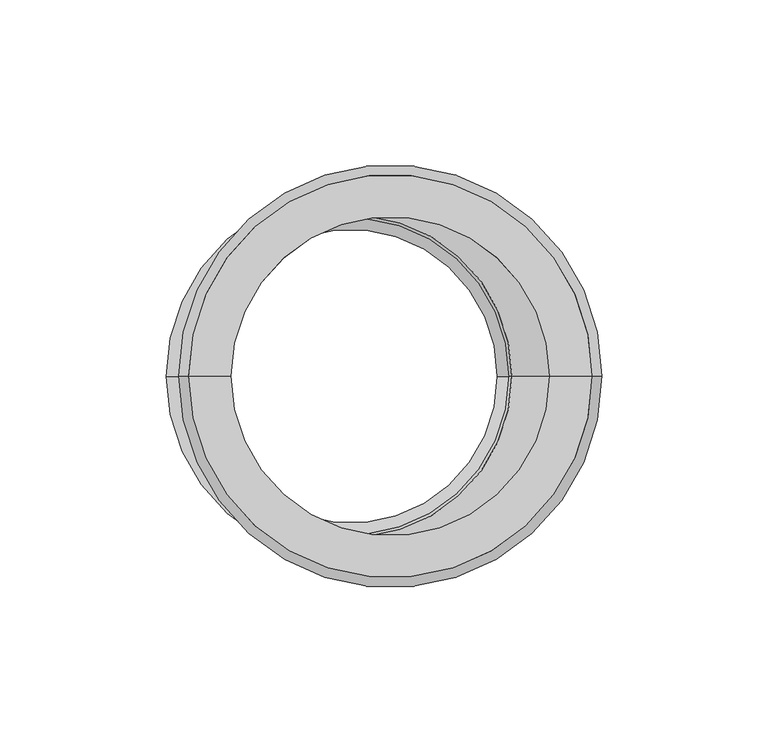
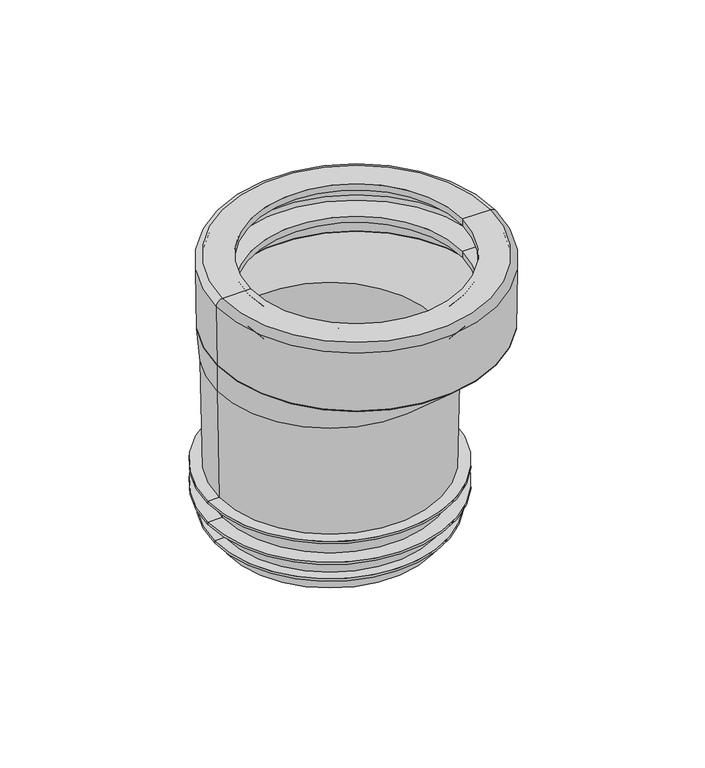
"""IFC4 building model written with IfcOpenShell, lengths in millimetres: sanitary terminal geometry, RSen_52_PIF_UN_closet connector no.7_wisa : closet connector_wisa_no 7 white."""

from ifc_helpers import new_model, si_unit, point, frame, origin, origin_with_axes, place, context, project, spatial, polyline, circle_curve, ellipse_curve, trimmed, source, transform, mapped, element, save
from ifc_brep_helpers import plane_surface, cylinder_surface, revolved_surface, spline_surface, advanced_brep


def sanitary_terminal_189e0af2(model_context):
    return source(origin(), model_context, "Body", "AdvancedBrep", [
        advanced_brep(
        [(75.2019466, 0.0, -31.3979602), (-51.2019466, 0.0, -31.3979602), (-48.2014896, 0.0, -31.3979602), (72.2014896, 0.0, -31.3979602), (51.3318986, 0.0, -43.5), (-51.3318986, 0.0, -43.5), (48.5868597, 0.0, -43.5), (-48.5868597, 0.0, -43.5)],
        [
            (0, 1, circle_curve(frame((12.0, 0.0, -31.3979602), z_axis=(0.0, 0.0, 1.0), x_axis=(1.0, 0.0, 0.0)), 63.2019466)),
            (1, 0, circle_curve(frame((12.0, 0.0, -31.3979602), z_axis=(0.0, 0.0, 1.0), x_axis=(1.0, 0.0, 0.0)), 63.2019466)),
            (2, 3, circle_curve(frame((12.0, 0.0, -31.3979602), z_axis=(0.0, 0.0, -1.0), x_axis=(1.0, 0.0, 0.0)), 60.2014896)),
            (3, 2, circle_curve(frame((12.0, 0.0, -31.3979602), z_axis=(0.0, 0.0, -1.0), x_axis=(1.0, 0.0, 0.0)), 60.2014896)),
            (4, 5, circle_curve(frame((0.0, 0.0, -43.5), z_axis=(0.0, 0.0, -1.0), x_axis=(1.0, 0.0, 0.0)), 51.3318986)),
            (5, 4, circle_curve(frame((0.0, 0.0, -43.5), z_axis=(0.0, 0.0, -1.0), x_axis=(1.0, 0.0, 0.0)), 51.3318986)),
            (6, 7, circle_curve(frame((0.0, 0.0, -43.5), z_axis=(0.0, 0.0, 1.0), x_axis=(1.0, 0.0, 0.0)), 48.5868597)),
            (7, 6, circle_curve(frame((0.0, 0.0, -43.5), z_axis=(0.0, 0.0, 1.0), x_axis=(1.0, 0.0, 0.0)), 48.5868597)),
            (0, 4),
            (5, 1),
            (6, 3),
            (2, 7),
        ],
        [
            plane_surface(frame((12.0, 0.0, -31.3979602), z_axis=(0.0, 0.0, 1.0), x_axis=(0.0, -1.0, 0.0))),
            plane_surface(frame((0.0, 0.0, -43.5), z_axis=(0.0, 0.0, -1.0), x_axis=(0.0, 1.0, 0.0))),
            spline_surface(2, 1, [[(51.3318986, 0.0, -43.5), (75.2019466, 0.0, -31.3979602)], [(51.3318986, 51.3318986, -43.5), (75.2019466, 63.2019466, -31.3979602)], [(0.0, 51.3318986, -43.5), (12.0, 63.2019466, -31.3979602)], [(-51.3318986, 51.3318986, -43.5), (-51.2019466, 63.2019466, -31.3979602)], [(-51.3318986, 0.0, -43.5), (-51.2019466, 0.0, -31.3979602)]], [3, 2, 3], [2, 2], [0.0, 1.0, 2.0], [0.0, 1.0], weights=[[1.0, 1.0], [0.7071067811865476, 0.7071067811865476], [1.0, 1.0], [0.7071067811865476, 0.7071067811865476], [1.0, 1.0]]),
            spline_surface(2, 1, [[(-51.3318986, 0.0, -43.5), (-51.2019466, 0.0, -31.3979602)], [(-51.3318986, -51.3318986, -43.5), (-51.2019466, -63.2019466, -31.3979602)], [(0.0, -51.3318986, -43.5), (12.0, -63.2019466, -31.3979602)], [(51.3318986, -51.3318986, -43.5), (75.2019466, -63.2019466, -31.3979602)], [(51.3318986, 0.0, -43.5), (75.2019466, 0.0, -31.3979602)]], [3, 2, 3], [2, 2], [0.0, 1.0, 2.0], [0.0, 1.0], weights=[[1.0, 1.0], [0.7071067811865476, 0.7071067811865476], [1.0, 1.0], [0.7071067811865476, 0.7071067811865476], [1.0, 1.0]]),
            spline_surface(1, 2, [[(48.5868597, 0.0, -43.5), (48.5868597, 48.5868597, -43.5), (0.0, 48.5868597, -43.5), (-48.5868597, 48.5868597, -43.5), (-48.5868597, 0.0, -43.5)], [(72.2014896, 0.0, -31.3979602), (72.2014896, 60.2014896, -31.3979602), (12.0, 60.2014896, -31.3979602), (-48.2014896, 60.2014896, -31.3979602), (-48.2014896, 0.0, -31.3979602)]], [2, 2], [3, 2, 3], [0.0, 1.0], [0.0, 1.0, 2.0], weights=[[1.0, 0.7071067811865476, 1.0, 0.7071067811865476, 1.0], [1.0, 0.7071067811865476, 1.0, 0.7071067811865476, 1.0]]),
            spline_surface(1, 2, [[(-48.5868597, 0.0, -43.5), (-48.5868597, -48.5868597, -43.5), (0.0, -48.5868597, -43.5), (48.5868597, -48.5868597, -43.5), (48.5868597, 0.0, -43.5)], [(-48.2014896, 0.0, -31.3979602), (-48.2014896, -60.2014896, -31.3979602), (12.0, -60.2014896, -31.3979602), (72.2014896, -60.2014896, -31.3979602), (72.2014896, 0.0, -31.3979602)]], [2, 2], [3, 2, 3], [0.0, 1.0], [0.0, 1.0, 2.0], weights=[[1.0, 0.7071067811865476, 1.0, 0.7071067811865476, 1.0], [1.0, 0.7071067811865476, 1.0, 0.7071067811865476, 1.0]]),
        ],
        [
            (0, [[1, 2], [3, 4]]),
            (1, [[5, 6], [7, 8]]),
            (2, [[-1, 9, -6, 10]]),
            (3, [[-2, -10, -5, -9]]),
            (4, [[11, -3, 12, -7]]),
            (5, [[-11, -8, -12, -4]]),
        ],
    ),
        advanced_brep(
        [(-36.0, 0.0, 0.0), (60.0, 0.0, 0.0), (72.6971778, 0.0, 0.0), (-48.6971778, 0.0, 0.0), (-36.0, 0.0, -3.0), (60.0, 0.0, -3.0), (-36.8962954, 0.0, -3.0), (60.8962954, 0.0, -3.0), (-39.443578, 0.0, -1.0009298), (63.443578, 0.0, -1.0009298), (-47.2524325, 0.0, -1.4101745), (71.2524325, 0.0, -1.4101745), (-48.6978722, 0.0, -2.9602188), (72.6978722, 0.0, -2.9602188), (-48.5047152, 0.0, -14.0261786), (72.5047152, 0.0, -14.0261786), (-47.0049436, 0.0, -15.5), (71.0049436, 0.0, -15.5), (-36.0, 0.0, -15.5), (60.0, 0.0, -15.5), (-36.0, 0.0, -18.5), (60.0, 0.0, -18.5), (-36.8962954, 0.0, -18.5), (60.8962954, 0.0, -18.5), (-39.443578, 0.0, -16.5009298), (63.443578, 0.0, -16.5009298), (-48.4532763, 0.0, -16.973108), (72.4532763, 0.0, -16.973108), (-48.2014896, 0.0, -31.3979602), (72.2014896, 0.0, -31.3979602), (-51.6967209, 0.0, -3.0523572), (75.6967209, 0.0, -3.0523572), (75.2019466, 0.0, -31.3979602), (-51.2019466, 0.0, -31.3979602)],
        [
            (0, 1, circle_curve(frame((12.0, 0.0, 0.0), z_axis=(0.0, 0.0, -1.0), x_axis=(1.0, 0.0, 0.0)), 48.0)),
            (1, 2),
            (2, 3, circle_curve(frame((12.0, 0.0, 0.0), z_axis=(0.0, 0.0, 1.0), x_axis=(1.0, 0.0, 0.0)), 60.6971778)),
            (3, 0),
            (1, 0, circle_curve(frame((12.0, 0.0, 0.0), z_axis=(0.0, 0.0, -1.0), x_axis=(1.0, 0.0, 0.0)), 48.0)),
            (3, 2, circle_curve(frame((12.0, 0.0, 0.0), z_axis=(0.0, 0.0, 1.0), x_axis=(1.0, 0.0, 0.0)), 60.6971778)),
            (4, 5, circle_curve(frame((12.0, 0.0, -3.0), z_axis=(0.0, 0.0, -1.0), x_axis=(1.0, 0.0, 0.0)), 48.0)),
            (5, 1),
            (0, 4),
            (5, 4, circle_curve(frame((12.0, 0.0, -3.0), z_axis=(0.0, 0.0, -1.0), x_axis=(1.0, 0.0, 0.0)), 48.0)),
            (6, 7, circle_curve(frame((12.0, 0.0, -3.0), z_axis=(0.0, 0.0, -1.0), x_axis=(1.0, 0.0, 0.0)), 48.8962954)),
            (7, 5),
            (4, 6),
            (7, 6, circle_curve(frame((12.0, 0.0, -3.0), z_axis=(0.0, 0.0, -1.0), x_axis=(1.0, 0.0, 0.0)), 48.8962954)),
            (8, 9, circle_curve(frame((12.0, 0.0, -1.0009298), z_axis=(0.0, 0.0, -1.0), x_axis=(1.0, 0.0, 0.0)), 51.443578)),
            (9, 7, circle_curve(frame((63.3147446, 0.0, -3.4592176), z_axis=(0.0, -1.0, 0.0), x_axis=(1.0, 0.0, 0.0)), 2.4616615)),
            (6, 8, circle_curve(frame((-39.3147446, 0.0, -3.4592176), z_axis=(0.0, -1.0, 0.0), x_axis=(-1.0, 0.0, 0.0)), 2.4616615)),
            (9, 8, circle_curve(frame((12.0, 0.0, -1.0009298), z_axis=(0.0, 0.0, -1.0), x_axis=(1.0, 0.0, 0.0)), 51.443578)),
            (10, 11, circle_curve(frame((12.0, 0.0, -1.4101745), z_axis=(0.0, 0.0, -1.0), x_axis=(1.0, 0.0, 0.0)), 59.2524325)),
            (11, 9),
            (8, 10),
            (11, 10, circle_curve(frame((12.0, 0.0, -1.4101745), z_axis=(0.0, 0.0, -1.0), x_axis=(1.0, 0.0, 0.0)), 59.2524325)),
            (12, 13, circle_curve(frame((12.0, 0.0, -2.9602188), z_axis=(0.0, 0.0, -1.0), x_axis=(1.0, 0.0, 0.0)), 60.6978722)),
            (13, 11, circle_curve(frame((71.1725934, 0.0, -2.933595), z_axis=(0.0, -1.0, 0.0), x_axis=(1.0, 0.0, 0.0)), 1.5255112)),
            (10, 12, circle_curve(frame((-47.1725934, 0.0, -2.933595), z_axis=(0.0, -1.0, 0.0), x_axis=(-1.0, 0.0, 0.0)), 1.5255112)),
            (13, 12, circle_curve(frame((12.0, 0.0, -2.9602188), z_axis=(0.0, 0.0, -1.0), x_axis=(1.0, 0.0, 0.0)), 60.6978722)),
            (14, 15, circle_curve(frame((12.0, 0.0, -14.0261786), z_axis=(0.0, 0.0, -1.0), x_axis=(1.0, 0.0, 0.0)), 60.5047152)),
            (15, 13),
            (12, 14),
            (15, 14, circle_curve(frame((12.0, 0.0, -14.0261786), z_axis=(0.0, 0.0, -1.0), x_axis=(1.0, 0.0, 0.0)), 60.5047152)),
            (16, 17, circle_curve(frame((12.0, 0.0, -15.5), z_axis=(0.0, 0.0, -1.0), x_axis=(1.0, 0.0, 0.0)), 59.0049436)),
            (17, 15, circle_curve(frame((71.0049436, 0.0, -14.0), z_axis=(0.0, -1.0, 0.0), x_axis=(1.0, 0.0, 0.0)), 1.5)),
            (14, 16, circle_curve(frame((-47.0049436, 0.0, -14.0), z_axis=(0.0, -1.0, 0.0), x_axis=(-1.0, 0.0, 0.0)), 1.5)),
            (17, 16, circle_curve(frame((12.0, 0.0, -15.5), z_axis=(0.0, 0.0, -1.0), x_axis=(1.0, 0.0, 0.0)), 59.0049436)),
            (18, 19, circle_curve(frame((12.0, 0.0, -15.5), z_axis=(0.0, 0.0, -1.0), x_axis=(1.0, 0.0, 0.0)), 48.0)),
            (19, 17),
            (16, 18),
            (19, 18, circle_curve(frame((12.0, 0.0, -15.5), z_axis=(0.0, 0.0, -1.0), x_axis=(1.0, 0.0, 0.0)), 48.0)),
            (20, 21, circle_curve(frame((12.0, 0.0, -18.5), z_axis=(0.0, 0.0, -1.0), x_axis=(1.0, 0.0, 0.0)), 48.0)),
            (21, 19),
            (18, 20),
            (21, 20, circle_curve(frame((12.0, 0.0, -18.5), z_axis=(0.0, 0.0, -1.0), x_axis=(1.0, 0.0, 0.0)), 48.0)),
            (22, 23, circle_curve(frame((12.0, 0.0, -18.5), z_axis=(0.0, 0.0, -1.0), x_axis=(1.0, 0.0, 0.0)), 48.8962954)),
            (23, 21),
            (20, 22),
            (23, 22, circle_curve(frame((12.0, 0.0, -18.5), z_axis=(0.0, 0.0, -1.0), x_axis=(1.0, 0.0, 0.0)), 48.8962954)),
            (24, 25, circle_curve(frame((12.0, 0.0, -16.5009298), z_axis=(0.0, 0.0, -1.0), x_axis=(1.0, 0.0, 0.0)), 51.443578)),
            (25, 23, circle_curve(frame((63.3147446, 0.0, -18.9592176), z_axis=(0.0, -1.0, 0.0), x_axis=(1.0, 0.0, 0.0)), 2.4616615)),
            (22, 24, circle_curve(frame((-39.3147446, 0.0, -18.9592176), z_axis=(0.0, -1.0, 0.0), x_axis=(-1.0, 0.0, 0.0)), 2.4616615)),
            (25, 24, circle_curve(frame((12.0, 0.0, -16.5009298), z_axis=(0.0, 0.0, -1.0), x_axis=(1.0, 0.0, 0.0)), 51.443578)),
            (26, 27, circle_curve(frame((12.0, 0.0, -16.973108), z_axis=(0.0, 0.0, -1.0), x_axis=(1.0, 0.0, 0.0)), 60.4532763)),
            (27, 25),
            (24, 26),
            (27, 26, circle_curve(frame((12.0, 0.0, -16.973108), z_axis=(0.0, 0.0, -1.0), x_axis=(1.0, 0.0, 0.0)), 60.4532763)),
            (28, 29, circle_curve(frame((12.0, 0.0, -31.3979602), z_axis=(0.0, 0.0, -1.0), x_axis=(1.0, 0.0, 0.0)), 60.2014896)),
            (29, 27),
            (26, 28),
            (29, 28, circle_curve(frame((12.0, 0.0, -31.3979602), z_axis=(0.0, 0.0, -1.0), x_axis=(1.0, 0.0, 0.0)), 60.2014896)),
            (30, 31, circle_curve(frame((12.0, 0.0, -3.0523572), z_axis=(0.0, 0.0, -1.0), x_axis=(1.0, 0.0, 0.0)), 63.6967209)),
            (31, 32),
            (32, 33, circle_curve(frame((12.0, 0.0, -31.3979602), z_axis=(0.0, 0.0, 1.0), x_axis=(1.0, 0.0, 0.0)), 63.2019466)),
            (33, 30),
            (31, 30, circle_curve(frame((12.0, 0.0, -3.0523572), z_axis=(0.0, 0.0, -1.0), x_axis=(1.0, 0.0, 0.0)), 63.6967209)),
            (33, 32, circle_curve(frame((12.0, 0.0, -31.3979602), z_axis=(0.0, 0.0, 1.0), x_axis=(1.0, 0.0, 0.0)), 63.2019466)),
            (2, 31, circle_curve(frame((72.6971778, 0.0, -3.0), z_axis=(0.0, 1.0, 0.0), x_axis=(1.0, 0.0, 0.0)), 3.0)),
            (30, 3, circle_curve(frame((-48.6971778, 0.0, -3.0), z_axis=(0.0, 1.0, 0.0), x_axis=(-1.0, 0.0, 0.0)), 3.0)),
            (32, 29),
            (28, 33),
        ],
        [
            plane_surface(frame((12.0, 0.0, 0.0), z_axis=(0.0, 0.0, 1.0), x_axis=(1.0, 0.0, 0.0))),
            revolved_surface(polyline([(60.0, 0.0, 0.0), (60.0, 0.0, -3.0)]), (12.0, 0.0, 0.0), (0.0, 0.0, 1.0)),
            plane_surface(frame((12.0, 0.0, -3.0), z_axis=(0.0, 0.0, -1.0), x_axis=(1.0, 0.0, 0.0))),
            revolved_surface(trimmed(ellipse_curve(frame((63.3147446, 0.0, -3.4592176), z_axis=(0.0, 1.0, 0.0), x_axis=(1.0, 0.0, 0.0)), 2.4616615, 2.4616615), [point((60.8962954, 0.0, -3.0))], [point((63.443578, 0.0, -1.0009298))], True, "CARTESIAN"), (12.0, 0.0, 0.0), (0.0, 0.0, 1.0)),
            revolved_surface(polyline([(63.443578, 0.0, -1.0009298), (71.2524325, 0.0, -1.4101745)]), (12.0, 0.0, 0.0), (0.0, 0.0, 1.0)),
            revolved_surface(trimmed(ellipse_curve(frame((71.1725934, 0.0, -2.933595), z_axis=(0.0, 1.0, 0.0), x_axis=(1.0, 0.0, 0.0)), 1.5255112, 1.5255112), [point((71.2524325, 0.0, -1.4101745))], [point((72.6978722, 0.0, -2.9602188))], True, "CARTESIAN"), (12.0, 0.0, 0.0), (0.0, 0.0, 1.0)),
            revolved_surface(polyline([(72.6978722, 0.0, -2.9602188), (72.5047152, 0.0, -14.0261786)]), (12.0, 0.0, 0.0), (0.0, 0.0, 1.0)),
            revolved_surface(trimmed(ellipse_curve(frame((71.0049436, 0.0, -14.0), z_axis=(0.0, 1.0, 0.0), x_axis=(1.0, 0.0, 0.0)), 1.5, 1.5), [point((72.5047152, 0.0, -14.0261786))], [point((71.0049436, 0.0, -15.5))], True, "CARTESIAN"), (12.0, 0.0, 0.0), (0.0, 0.0, 1.0)),
            plane_surface(frame((12.0, 0.0, -15.5), z_axis=(0.0, 0.0, 1.0), x_axis=(1.0, 0.0, 0.0))),
            revolved_surface(polyline([(60.0, 0.0, -15.5), (60.0, 0.0, -18.5)]), (12.0, 0.0, 0.0), (0.0, 0.0, 1.0)),
            plane_surface(frame((12.0, 0.0, -18.5), z_axis=(0.0, 0.0, -1.0), x_axis=(1.0, 0.0, 0.0))),
            revolved_surface(trimmed(ellipse_curve(frame((63.3147446, 0.0, -18.9592176), z_axis=(0.0, 1.0, 0.0), x_axis=(1.0, 0.0, 0.0)), 2.4616615, 2.4616615), [point((60.8962954, 0.0, -18.5))], [point((63.443578, 0.0, -16.5009298))], True, "CARTESIAN"), (12.0, 0.0, 0.0), (0.0, 0.0, 1.0)),
            revolved_surface(polyline([(63.443578, 0.0, -16.5009298), (72.4532763, 0.0, -16.973108)]), (12.0, 0.0, 0.0), (0.0, 0.0, 1.0)),
            revolved_surface(polyline([(72.4532763, 0.0, -16.973108), (72.2014896, 0.0, -31.3979602)]), (12.0, 0.0, 0.0), (0.0, 0.0, 1.0)),
            revolved_surface(polyline([(75.2019466, 0.0, -31.3979602), (75.6967209, 0.0, -3.0523572)]), (12.0, 0.0, 0.0), (0.0, 0.0, 1.0)),
            revolved_surface(trimmed(ellipse_curve(frame((72.6971778, 0.0, -3.0), z_axis=(0.0, -1.0, 0.0), x_axis=(1.0, 0.0, 0.0)), 3.0, 3.0), [point((75.6967209, 0.0, -3.0523572))], [point((72.6971778, 0.0, 0.0))], True, "CARTESIAN"), (12.0, 0.0, 0.0), (0.0, 0.0, 1.0)),
            plane_surface(frame((12.0, 0.0, -31.3979602), z_axis=(0.0, 0.0, -1.0), x_axis=(1.0, 0.0, 0.0))),
        ],
        [
            (0, [[1, 2, 3, 4]]),
            (0, [[5, -4, 6, -2]]),
            (1, [[7, 8, -1, 9]]),
            (1, [[10, -9, -5, -8]]),
            (2, [[11, 12, -7, 13]]),
            (2, [[14, -13, -10, -12]]),
            (3, [[15, 16, -11, 17]]),
            (3, [[18, -17, -14, -16]]),
            (4, [[19, 20, -15, 21]]),
            (4, [[22, -21, -18, -20]]),
            (5, [[23, 24, -19, 25]]),
            (5, [[26, -25, -22, -24]]),
            (6, [[27, 28, -23, 29]]),
            (6, [[30, -29, -26, -28]]),
            (7, [[31, 32, -27, 33]]),
            (7, [[34, -33, -30, -32]]),
            (8, [[35, 36, -31, 37]]),
            (8, [[38, -37, -34, -36]]),
            (9, [[39, 40, -35, 41]]),
            (9, [[42, -41, -38, -40]]),
            (10, [[43, 44, -39, 45]]),
            (10, [[46, -45, -42, -44]]),
            (11, [[47, 48, -43, 49]]),
            (11, [[50, -49, -46, -48]]),
            (12, [[51, 52, -47, 53]]),
            (12, [[54, -53, -50, -52]]),
            (13, [[55, 56, -51, 57]]),
            (13, [[58, -57, -54, -56]]),
            (14, [[59, 60, 61, 62]]),
            (14, [[63, -62, 64, -60]]),
            (15, [[-3, 65, -59, 66]]),
            (15, [[-6, -66, -63, -65]]),
            (16, [[-61, 67, -55, 68]]),
            (16, [[-64, -68, -58, -67]]),
        ],
    ),
        advanced_brep(
        [(-46.8916152, 0.0, -116.0275376), (46.8916152, 0.0, -116.0275376), (46.5, 0.0, -123.5), (-46.5, 0.0, -123.5), (-52.5, 0.0, -116.0275376), (52.5, 0.0, -116.0275376), (-52.5, 0.0, -115.0), (52.5, 0.0, -115.0), (-47.9541176, 0.0, -115.0), (47.9541176, 0.0, -115.0), (-48.4257877, 0.0, -106.0), (48.4257877, 0.0, -106.0), (-55.5343222, 0.0, -106.0), (55.5343222, 0.0, -106.0), (-55.5343222, 0.0, -105.0), (55.5343222, 0.0, -105.0), (-48.9541176, 0.0, -105.0), (48.9541176, 0.0, -105.0), (-49.4279521, 0.0, -95.9587001), (49.4279521, 0.0, -95.9587001), (-55.5343222, 0.0, -95.9587001), (55.5343222, 0.0, -95.9587001), (-55.5343222, 0.0, -95.0), (55.5343222, 0.0, -95.0), (-50.4329627, 0.0, -95.0), (50.4329627, 0.0, -95.0), (-51.3318986, 0.0, -43.5), (51.3318986, 0.0, -43.5), (-48.5868597, 0.0, -43.5), (48.5868597, 0.0, -43.5), (-47.6791964, 0.0, -95.5), (47.6791964, 0.0, -95.5), (-44.25, 0.0, -119.9), (44.25, 0.0, -119.9), (-44.25, 0.0, -123.5), (44.25, 0.0, -123.5)],
        [
            (0, 1, circle_curve(frame((0.0, 0.0, -116.0275376), z_axis=(0.0, 0.0, -1.0), x_axis=(1.0, 0.0, 0.0)), 46.8916152)),
            (1, 2),
            (2, 3, circle_curve(frame((0.0, 0.0, -123.5), z_axis=(0.0, 0.0, 1.0), x_axis=(1.0, 0.0, 0.0)), 46.5)),
            (3, 0),
            (1, 0, circle_curve(frame((0.0, 0.0, -116.0275376), z_axis=(0.0, 0.0, -1.0), x_axis=(1.0, 0.0, 0.0)), 46.8916152)),
            (3, 2, circle_curve(frame((0.0, 0.0, -123.5), z_axis=(0.0, 0.0, 1.0), x_axis=(1.0, 0.0, 0.0)), 46.5)),
            (4, 5, circle_curve(frame((0.0, 0.0, -116.0275376), z_axis=(0.0, 0.0, -1.0), x_axis=(1.0, 0.0, 0.0)), 52.5)),
            (5, 1),
            (0, 4),
            (5, 4, circle_curve(frame((0.0, 0.0, -116.0275376), z_axis=(0.0, 0.0, -1.0), x_axis=(1.0, 0.0, 0.0)), 52.5)),
            (6, 7, circle_curve(frame((0.0, 0.0, -115.0), z_axis=(0.0, 0.0, -1.0), x_axis=(1.0, 0.0, 0.0)), 52.5)),
            (7, 5),
            (4, 6),
            (7, 6, circle_curve(frame((0.0, 0.0, -115.0), z_axis=(0.0, 0.0, -1.0), x_axis=(1.0, 0.0, 0.0)), 52.5)),
            (8, 9, circle_curve(frame((0.0, 0.0, -115.0), z_axis=(0.0, 0.0, -1.0), x_axis=(1.0, 0.0, 0.0)), 47.9541176)),
            (9, 7),
            (6, 8),
            (9, 8, circle_curve(frame((0.0, 0.0, -115.0), z_axis=(0.0, 0.0, -1.0), x_axis=(1.0, 0.0, 0.0)), 47.9541176)),
            (10, 11, circle_curve(frame((0.0, 0.0, -106.0), z_axis=(0.0, 0.0, -1.0), x_axis=(1.0, 0.0, 0.0)), 48.4257877)),
            (11, 9),
            (8, 10),
            (11, 10, circle_curve(frame((0.0, 0.0, -106.0), z_axis=(0.0, 0.0, -1.0), x_axis=(1.0, 0.0, 0.0)), 48.4257877)),
            (12, 13, circle_curve(frame((0.0, 0.0, -106.0), z_axis=(0.0, 0.0, -1.0), x_axis=(1.0, 0.0, 0.0)), 55.5343222)),
            (13, 11),
            (10, 12),
            (13, 12, circle_curve(frame((0.0, 0.0, -106.0), z_axis=(0.0, 0.0, -1.0), x_axis=(1.0, 0.0, 0.0)), 55.5343222)),
            (14, 15, circle_curve(frame((0.0, 0.0, -105.0), z_axis=(0.0, 0.0, -1.0), x_axis=(1.0, 0.0, 0.0)), 55.5343222)),
            (15, 13),
            (12, 14),
            (15, 14, circle_curve(frame((0.0, 0.0, -105.0), z_axis=(0.0, 0.0, -1.0), x_axis=(1.0, 0.0, 0.0)), 55.5343222)),
            (16, 17, circle_curve(frame((0.0, 0.0, -105.0), z_axis=(0.0, 0.0, -1.0), x_axis=(1.0, 0.0, 0.0)), 48.9541176)),
            (17, 15),
            (14, 16),
            (17, 16, circle_curve(frame((0.0, 0.0, -105.0), z_axis=(0.0, 0.0, -1.0), x_axis=(1.0, 0.0, 0.0)), 48.9541176)),
            (18, 19, circle_curve(frame((0.0, 0.0, -95.9587001), z_axis=(0.0, 0.0, -1.0), x_axis=(1.0, 0.0, 0.0)), 49.4279521)),
            (19, 17),
            (16, 18),
            (19, 18, circle_curve(frame((0.0, 0.0, -95.9587001), z_axis=(0.0, 0.0, -1.0), x_axis=(1.0, 0.0, 0.0)), 49.4279521)),
            (20, 21, circle_curve(frame((0.0, 0.0, -95.9587001), z_axis=(0.0, 0.0, -1.0), x_axis=(1.0, 0.0, 0.0)), 55.5343222)),
            (21, 19),
            (18, 20),
            (21, 20, circle_curve(frame((0.0, 0.0, -95.9587001), z_axis=(0.0, 0.0, -1.0), x_axis=(1.0, 0.0, 0.0)), 55.5343222)),
            (22, 23, circle_curve(frame((0.0, 0.0, -95.0), z_axis=(0.0, 0.0, -1.0), x_axis=(1.0, 0.0, 0.0)), 55.5343222)),
            (23, 21),
            (20, 22),
            (23, 22, circle_curve(frame((0.0, 0.0, -95.0), z_axis=(0.0, 0.0, -1.0), x_axis=(1.0, 0.0, 0.0)), 55.5343222)),
            (24, 25, circle_curve(frame((0.0, 0.0, -95.0), z_axis=(0.0, 0.0, -1.0), x_axis=(1.0, 0.0, 0.0)), 50.4329627)),
            (25, 23),
            (22, 24),
            (25, 24, circle_curve(frame((0.0, 0.0, -95.0), z_axis=(0.0, 0.0, -1.0), x_axis=(1.0, 0.0, 0.0)), 50.4329627)),
            (26, 27, circle_curve(frame((0.0, 0.0, -43.5), z_axis=(0.0, 0.0, -1.0), x_axis=(1.0, 0.0, 0.0)), 51.3318986)),
            (27, 25),
            (24, 26),
            (27, 26, circle_curve(frame((0.0, 0.0, -43.5), z_axis=(0.0, 0.0, -1.0), x_axis=(1.0, 0.0, 0.0)), 51.3318986)),
            (28, 29, circle_curve(frame((0.0, 0.0, -43.5), z_axis=(0.0, 0.0, -1.0), x_axis=(1.0, 0.0, 0.0)), 48.5868597)),
            (29, 27),
            (26, 28),
            (29, 28, circle_curve(frame((0.0, 0.0, -43.5), z_axis=(0.0, 0.0, -1.0), x_axis=(1.0, 0.0, 0.0)), 48.5868597)),
            (30, 31, circle_curve(frame((0.0, 0.0, -95.5), z_axis=(0.0, 0.0, -1.0), x_axis=(1.0, 0.0, 0.0)), 47.6791964)),
            (31, 29),
            (28, 30),
            (31, 30, circle_curve(frame((0.0, 0.0, -95.5), z_axis=(0.0, 0.0, -1.0), x_axis=(1.0, 0.0, 0.0)), 47.6791964)),
            (32, 33, circle_curve(frame((0.0, 0.0, -119.9), z_axis=(0.0, 0.0, -1.0), x_axis=(1.0, 0.0, 0.0)), 44.25)),
            (33, 31),
            (30, 32),
            (33, 32, circle_curve(frame((0.0, 0.0, -119.9), z_axis=(0.0, 0.0, -1.0), x_axis=(1.0, 0.0, 0.0)), 44.25)),
            (34, 35, circle_curve(frame((0.0, 0.0, -123.5), z_axis=(0.0, 0.0, -1.0), x_axis=(1.0, 0.0, 0.0)), 44.25)),
            (35, 33),
            (32, 34),
            (35, 34, circle_curve(frame((0.0, 0.0, -123.5), z_axis=(0.0, 0.0, -1.0), x_axis=(1.0, 0.0, 0.0)), 44.25)),
            (2, 35),
            (34, 3),
        ],
        [
            revolved_surface(polyline([(46.5, 0.0, -123.5), (46.8916152, 0.0, -116.0275376)]), (0.0, 0.0, 0.0), (0.0, 0.0, 1.0)),
            plane_surface(frame((0.0, 0.0, -116.0275376), z_axis=(0.0, 0.0, -1.0), x_axis=(1.0, 0.0, 0.0))),
            cylinder_surface(origin_with_axes(), 52.5),
            plane_surface(frame((0.0, 0.0, -115.0), z_axis=(0.0, 0.0, 1.0), x_axis=(1.0, 0.0, 0.0))),
            revolved_surface(polyline([(47.9541176, 0.0, -115.0), (48.4257877, 0.0, -106.0)]), (0.0, 0.0, 0.0), (0.0, 0.0, 1.0)),
            plane_surface(frame((0.0, 0.0, -106.0), z_axis=(0.0, 0.0, -1.0), x_axis=(1.0, 0.0, 0.0))),
            cylinder_surface(origin_with_axes(), 55.5343222),
            plane_surface(frame((0.0, 0.0, -105.0), z_axis=(0.0, 0.0, 1.0), x_axis=(1.0, 0.0, 0.0))),
            revolved_surface(polyline([(48.9541176, 0.0, -105.0), (49.4279521, 0.0, -95.9587001)]), (0.0, 0.0, 0.0), (0.0, 0.0, 1.0)),
            plane_surface(frame((0.0, 0.0, -95.9587001), z_axis=(0.0, 0.0, -1.0), x_axis=(1.0, 0.0, 0.0))),
            plane_surface(frame((0.0, 0.0, -95.0), z_axis=(0.0, 0.0, 1.0), x_axis=(1.0, 0.0, 0.0))),
            revolved_surface(polyline([(50.4329627, 0.0, -95.0), (51.3318986, 0.0, -43.5)]), (0.0, 0.0, 0.0), (0.0, 0.0, 1.0)),
            plane_surface(frame((0.0, 0.0, -43.5), z_axis=(0.0, 0.0, 1.0), x_axis=(1.0, 0.0, 0.0))),
            revolved_surface(polyline([(48.5868597, 0.0, -43.5), (47.6791964, 0.0, -95.5)]), (0.0, 0.0, 0.0), (0.0, 0.0, 1.0)),
            revolved_surface(polyline([(47.6791964, 0.0, -95.5), (44.25, 0.0, -119.9)]), (0.0, 0.0, 0.0), (0.0, 0.0, 1.0)),
            revolved_surface(polyline([(44.25, 0.0, -119.9), (44.25, 0.0, -123.5)]), (0.0, 0.0, 0.0), (0.0, 0.0, 1.0)),
            plane_surface(frame((0.0, 0.0, -123.5), z_axis=(0.0, 0.0, -1.0), x_axis=(1.0, 0.0, 0.0))),
        ],
        [
            (0, [[1, 2, 3, 4]]),
            (0, [[5, -4, 6, -2]]),
            (1, [[7, 8, -1, 9]]),
            (1, [[10, -9, -5, -8]]),
            (2, [[11, 12, -7, 13]]),
            (2, [[14, -13, -10, -12]]),
            (3, [[15, 16, -11, 17]]),
            (3, [[18, -17, -14, -16]]),
            (4, [[19, 20, -15, 21]]),
            (4, [[22, -21, -18, -20]]),
            (5, [[23, 24, -19, 25]]),
            (5, [[26, -25, -22, -24]]),
            (6, [[27, 28, -23, 29]]),
            (6, [[30, -29, -26, -28]]),
            (7, [[31, 32, -27, 33]]),
            (7, [[34, -33, -30, -32]]),
            (8, [[35, 36, -31, 37]]),
            (8, [[38, -37, -34, -36]]),
            (9, [[39, 40, -35, 41]]),
            (9, [[42, -41, -38, -40]]),
            (6, [[43, 44, -39, 45]]),
            (6, [[46, -45, -42, -44]]),
            (10, [[47, 48, -43, 49]]),
            (10, [[50, -49, -46, -48]]),
            (11, [[51, 52, -47, 53]]),
            (11, [[54, -53, -50, -52]]),
            (12, [[55, 56, -51, 57]]),
            (12, [[58, -57, -54, -56]]),
            (13, [[59, 60, -55, 61]]),
            (13, [[62, -61, -58, -60]]),
            (14, [[63, 64, -59, 65]]),
            (14, [[66, -65, -62, -64]]),
            (15, [[67, 68, -63, 69]]),
            (15, [[70, -69, -66, -68]]),
            (16, [[-3, 71, -67, 72]]),
            (16, [[-6, -72, -70, -71]]),
        ],
    ),
    ])


if __name__ == "__main__":
    model = new_model("IFC4")
    model_context = context("Model", 3, world=origin())
    ifc_project = project(units=[si_unit("LENGTHUNIT", "METRE", prefix="MILLI")], contexts=[model_context])
    site = spatial("IfcSite", under=ifc_project)
    building = spatial("IfcBuilding", under=site)
    placement = place(None, origin())
    sanitary_terminal_shape = sanitary_terminal_189e0af2(model_context)
    element("IfcSanitaryTerminal", 1, ObjectType="RSen_52_PIF_UN_closet connector no.7_wisa : closet connector_wisa_no 7 white", at=placement, inside=building, context=model_context, shape_type="MappedRepresentation", body=[
        mapped(sanitary_terminal_shape, transform((0.0, 0.0, 0.0), x_axis=(1.0, 0.0, 0.0), y_axis=(0.0, 1.0, 0.0), z_axis=(0.0, 0.0, 1.0))),
    ])
    save(model, "model.ifc")
